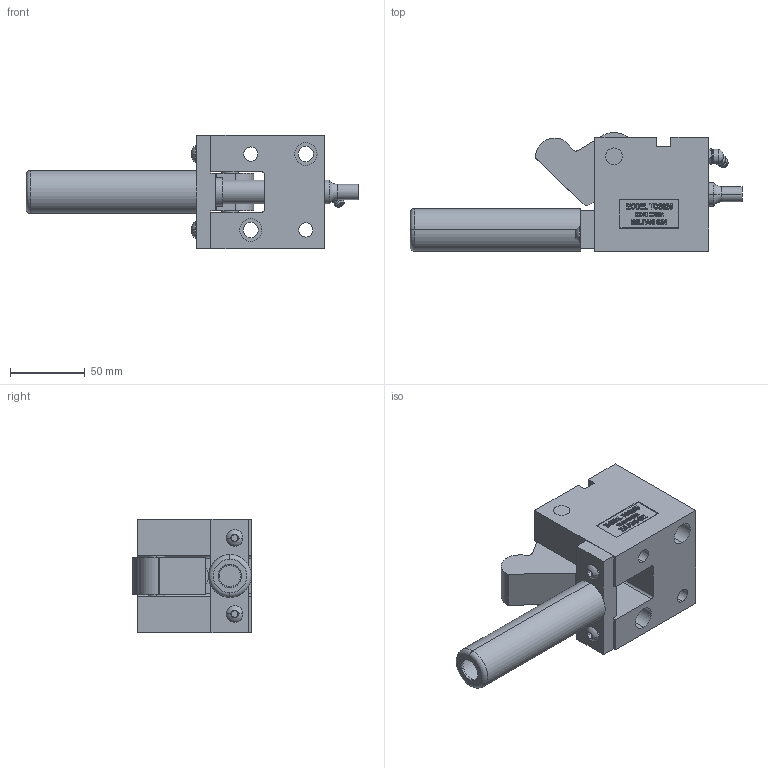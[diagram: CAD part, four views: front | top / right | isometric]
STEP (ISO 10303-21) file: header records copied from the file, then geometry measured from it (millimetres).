
FILE_DESCRIPTION (( 'STEP AP214' ), '1' );
FILE_NAME ('TOS62545-O.STEP', '2014-01-05T21:53:03', ( 'user' ), ( '' ), 'SwSTEP 2.0', 'SolidWorks 2009', '' );
FILE_SCHEMA (( 'AUTOMOTIVE_DESIGN' ));
Length unit declared in the file: inch
Products named in the file (10): OS625-PUNCH; 625-OFFSET TRIGGER; TOS625-BODY; TOS62545-O; 625-O-STRAP; 625 PIVOT PIN; O-625-POINT; GREASE ZERK; 1-4 SCREW; OS625-CAGE
Assembly tree (10 placements, depth 2):
  TOS62545-O
    625-OFFSET TRIGGER
    1-4 SCREW  x2
    625-O-STRAP
    O-625-POINT
    OS625-PUNCH
    OS625-CAGE
    625 PIVOT PIN
    TOS625-BODY
    GREASE ZERK
Bounding box: 222.12 x 79.37 x 76.2 mm (x, y, z)
Volume: 426060.1 mm3; surface area: 97819.8 mm2
Topology: 10 solids, 10 shells, 589 faces, 1526 edges, 1004 vertices
Faces by surface type: plane 339, bspline 114, cylinder 84, cone 26, torus 22, sphere 4
Entity records: 24144 total; most frequent: CARTESIAN_POINT 10505, ORIENTED_EDGE 2964, DIRECTION 2320, EDGE_CURVE 1482, VERTEX_POINT 978, VECTOR 964, LINE 964, AXIS2_PLACEMENT_3D 678
